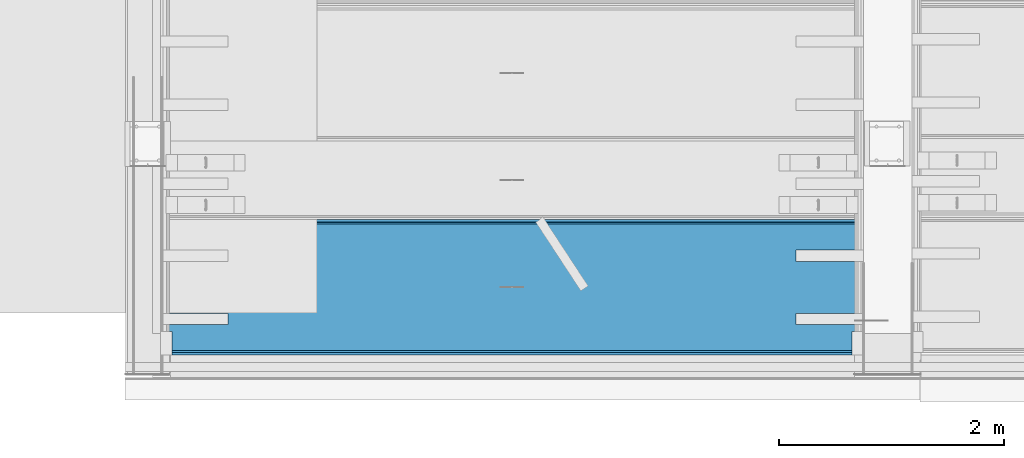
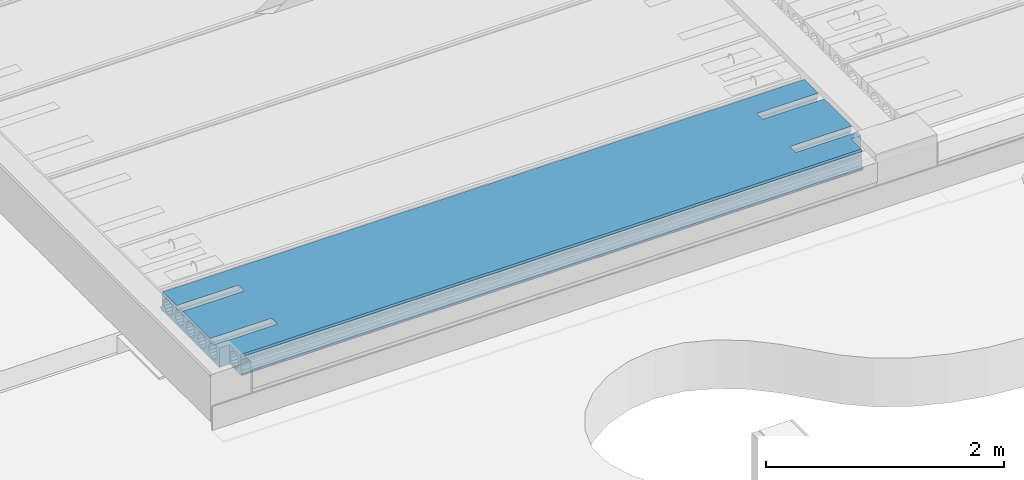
# One storey, part 72 of 230: 1 beam.
"""IFC4X3_ADD2 building model written with IfcOpenShell, lengths in millimetres."""

from ifc_helpers import new_model, si_unit, direction, origin_with_axes, place, context, subcontext, project, spatial, polygons, element, save


model = new_model("IFC4X3_ADD2")

# Units and contexts
model_context = context("Model", 3, precision=1e-05, world=origin_with_axes(), true_north=direction((0.0, 1.0)))
body_context = subcontext(model_context, "Body", "Model", "MODEL_VIEW")
ifc_project = project(units=[si_unit("LENGTHUNIT", "METRE", prefix="MILLI"), si_unit("AREAUNIT", "SQUARE_METRE"), si_unit("VOLUMEUNIT", "CUBIC_METRE"), si_unit("PLANEANGLEUNIT", "RADIAN"), si_unit("TIMEUNIT", "SECOND"), si_unit("MASSUNIT", "GRAM")], contexts=[model_context])

# Site, building, storey
site_placement = place(None, origin_with_axes())
site = spatial("IfcSite", under=ifc_project, at=site_placement, Name="Site", CompositionType="ELEMENT")
building_placement = place(site_placement, origin_with_axes())
building = spatial("IfcBuilding", under=site, at=building_placement, Name="IFC Building Story")
storey_placement = place(building_placement, origin_with_axes())
storey = spatial("IfcBuildingStorey", under=building, at=storey_placement, Name="ETAGE 00 (0)", Elevation=0.0)

# Beam
beam_placement = place(storey_placement, origin_with_axes())
element("IfcBeam", 1, at=beam_placement, inside=storey, Name="HOLLOWCORE SLAB", ObjectType="EB_SP200", context=body_context, shape_type="Tessellation", body=[
    polygons([(33515.6922247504, -13989.999771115, 4199.9999909), (33515.6922247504, -13989.999771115, 4155.806158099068), (33515.6922247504, -13994.67922631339, 4152.679446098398), (33515.6922247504, -14010.82879628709, 4128.509906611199), (33515.6922247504, -14016.499771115, 4099.9999909), (33515.6922247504, -14010.82879628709, 4071.490075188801), (33515.6922247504, -13994.67922631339, 4047.320535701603), (33515.6922247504, -13970.5096868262, 4031.17096572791), (33515.6922247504, -13941.999771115, 4025.499990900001), (33515.6922247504, -13913.4898554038, 4031.17096572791), (33515.6922247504, -13889.3203159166, 4047.320535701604), (33515.6922247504, -13873.17074594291, 4071.490075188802), (33515.6922247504, -13867.499771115, 4099.9999909), (33515.6922247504, -13873.17074594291, 4128.5099066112), (33515.6922247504, -13889.3203159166, 4152.679446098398), (33515.6922247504, -13889.999771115, 4153.13344354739), (33515.6922247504, -13889.999771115, 4199.9999909), (33515.6922247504, -13429.999771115, 4199.9999909), (33515.6922247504, -13429.999771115, 4153.133443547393), (33515.6922247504, -13430.6792263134, 4152.679446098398), (33515.6922247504, -13446.82879628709, 4128.509906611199), (33515.6922247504, -13452.499771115, 4099.9999909), (33515.6922247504, -13446.82879628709, 4071.490075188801), (33515.6922247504, -13430.67922631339, 4047.320535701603), (33515.6922247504, -13406.5096868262, 4031.17096572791), (33515.6922247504, -13377.999771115, 4025.499990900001), (33515.6922247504, -13349.4898554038, 4031.17096572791), (33515.6922247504, -13325.3203159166, 4047.320535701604), (33515.6922247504, -13309.17074594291, 4071.490075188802), (33515.6922247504, -13303.499771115, 4099.9999909), (33515.6922247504, -13309.17074594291, 4128.5099066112), (33515.6922247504, -13325.3203159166, 4152.679446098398), (33515.6922247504, -13329.999771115, 4155.806158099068), (33515.6922247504, -13329.999771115, 4199.9999909), (33515.6922247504, -13097.999771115, 4199.9999909), (33515.6922247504, -13082.71106727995, 4185.002769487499), (33515.6922247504, -13082.22975158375, 4159.9999909), (33515.6922247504, -13089.41840752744, 4151.036789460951), (33515.6922247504, -13091.83970112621, 4139.805000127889), (33515.6922247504, -13088.98239259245, 4128.676139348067), (33515.6922247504, -13081.44978332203, 4119.9999909), (33515.6922247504, -13079.999771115, 4044.999990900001), (33515.6922247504, -13059.999771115, 4029.9999909), (33515.6922247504, -13059.999771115, 4012.9999909), (33515.6922247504, -13070.999771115, 3999.9999909), (33515.6922247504, -14049.999771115, 3999.9999909), (33515.6922247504, -14049.999771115, 4199.9999909), (33515.6922247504, -13137.3203159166, 4152.679446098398), (33515.6922247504, -13161.4898554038, 4168.829016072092), (33515.6922247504, -13189.999771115, 4174.4999909), (33515.6922247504, -13218.5096868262, 4168.829016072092), (33515.6922247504, -13242.6792263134, 4152.679446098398), (33515.6922247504, -13258.82879628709, 4128.509906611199), (33515.6922247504, -13264.499771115, 4099.9999909), (33515.6922247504, -13258.82879628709, 4071.490075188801), (33515.6922247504, -13242.6792263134, 4047.320535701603), (33515.6922247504, -13218.5096868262, 4031.17096572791), (33515.6922247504, -13189.999771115, 4025.499990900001), (33515.6922247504, -13161.4898554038, 4031.17096572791), (33515.6922247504, -13137.3203159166, 4047.320535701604), (33515.6922247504, -13121.17074594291, 4071.490075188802), (33515.6922247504, -13115.499771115, 4099.9999909), (33515.6922247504, -13121.17074594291, 4128.5099066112), (33515.6922247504, -13513.3203159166, 4152.679446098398), (33515.6922247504, -13537.4898554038, 4168.829016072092), (33515.6922247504, -13565.999771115, 4174.4999909), (33515.6922247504, -13594.5096868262, 4168.829016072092), (33515.6922247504, -13618.67922631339, 4152.679446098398), (33515.6922247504, -13634.82879628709, 4128.509906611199), (33515.6922247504, -13640.499771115, 4099.9999909), (33515.6922247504, -13634.82879628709, 4071.490075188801), (33515.6922247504, -13618.67922631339, 4047.320535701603), (33515.6922247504, -13594.5096868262, 4031.17096572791), (33515.6922247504, -13565.999771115, 4025.499990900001), (33515.6922247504, -13537.4898554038, 4031.17096572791), (33515.6922247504, -13513.3203159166, 4047.320535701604), (33515.6922247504, -13497.17074594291, 4071.490075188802), (33515.6922247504, -13491.499771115, 4099.9999909), (33515.6922247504, -13497.17074594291, 4128.5099066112), (33515.6922247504, -13701.3203159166, 4152.679446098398), (33515.6922247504, -13725.4898554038, 4168.829016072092), (33515.6922247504, -13753.999771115, 4174.4999909), (33515.6922247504, -13782.5096868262, 4168.829016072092), (33515.6922247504, -13806.67922631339, 4152.679446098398), (33515.6922247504, -13822.82879628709, 4128.509906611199), (33515.6922247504, -13828.499771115, 4099.9999909), (33515.6922247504, -13822.82879628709, 4071.490075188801), (33515.6922247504, -13806.67922631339, 4047.320535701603), (33515.6922247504, -13782.5096868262, 4031.17096572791), (33515.6922247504, -13753.999771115, 4025.499990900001), (33515.6922247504, -13725.4898554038, 4031.17096572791), (33515.6922247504, -13701.3203159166, 4047.320535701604), (33515.6922247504, -13685.17074594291, 4071.490075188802), (33515.6922247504, -13679.499771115, 4099.9999909), (33515.6922247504, -13685.17074594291, 4128.5099066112), (39750.6922247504, -13070.999771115, 3999.9999909), (39750.6922247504, -13059.999771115, 4012.999990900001), (39750.6922247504, -13059.999771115, 4029.9999909), (39750.6922247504, -13079.999771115, 4044.999990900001), (39750.6922247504, -13081.44978332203, 4119.9999909), (39750.6922247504, -13088.98239259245, 4128.676139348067), (39750.6922247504, -13091.83970112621, 4139.805000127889), (39750.6922247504, -13089.41840752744, 4151.036789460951), (39750.6922247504, -13082.22975158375, 4159.9999909), (39750.6922247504, -13082.71106727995, 4185.002769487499), (39750.6922247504, -13097.999771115, 4199.9999909), (39750.6922247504, -13329.999771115, 4199.9999909), (39750.6922247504, -13329.999771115, 4155.806158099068), (39750.6922247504, -13325.3203159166, 4152.679446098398), (39750.6922247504, -13309.17074594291, 4128.509906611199), (39750.6922247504, -13303.499771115, 4099.9999909), (39750.6922247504, -13309.17074594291, 4071.490075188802), (39750.6922247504, -13325.3203159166, 4047.320535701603), (39750.6922247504, -13349.4898554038, 4031.17096572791), (39750.6922247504, -13377.999771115, 4025.499990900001), (39750.6922247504, -13406.5096868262, 4031.17096572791), (39750.6922247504, -13430.6792263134, 4047.320535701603), (39750.6922247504, -13446.82879628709, 4071.490075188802), (39750.6922247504, -13452.499771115, 4099.9999909), (39750.6922247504, -13446.82879628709, 4128.509906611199), (39750.6922247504, -13430.6792263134, 4152.679446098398), (39750.6922247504, -13429.999771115, 4153.133443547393), (39750.6922247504, -13429.999771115, 4199.9999909), (39750.6922247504, -13889.999771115, 4199.9999909), (39750.6922247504, -13889.999771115, 4153.13344354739), (39750.6922247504, -13889.3203159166, 4152.679446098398), (39750.6922247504, -13873.17074594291, 4128.509906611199), (39750.6922247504, -13867.499771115, 4099.9999909), (39750.6922247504, -13873.17074594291, 4071.490075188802), (39750.6922247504, -13889.3203159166, 4047.320535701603), (39750.6922247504, -13913.4898554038, 4031.17096572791), (39750.6922247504, -13941.999771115, 4025.499990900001), (39750.6922247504, -13970.5096868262, 4031.17096572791), (39750.6922247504, -13994.67922631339, 4047.320535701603), (39750.6922247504, -14010.82879628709, 4071.490075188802), (39750.6922247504, -14016.499771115, 4099.9999909), (39750.6922247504, -14010.82879628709, 4128.509906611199), (39750.6922247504, -13994.67922631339, 4152.679446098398), (39750.6922247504, -13989.999771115, 4155.806158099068), (39750.6922247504, -13989.999771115, 4199.9999909), (39750.6922247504, -14049.999771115, 4199.9999909), (39750.6922247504, -14049.999771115, 3999.9999909), (39750.6922247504, -13137.3203159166, 4152.679446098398), (39750.6922247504, -13121.17074594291, 4128.509906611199), (39750.6922247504, -13115.499771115, 4099.9999909), (39750.6922247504, -13121.17074594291, 4071.490075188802), (39750.6922247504, -13137.3203159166, 4047.320535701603), (39750.6922247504, -13161.4898554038, 4031.17096572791), (39750.6922247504, -13189.999771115, 4025.499990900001), (39750.6922247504, -13218.5096868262, 4031.17096572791), (39750.6922247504, -13242.6792263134, 4047.320535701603), (39750.6922247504, -13258.82879628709, 4071.490075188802), (39750.6922247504, -13264.499771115, 4099.9999909), (39750.6922247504, -13258.82879628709, 4128.509906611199), (39750.6922247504, -13242.6792263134, 4152.679446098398), (39750.6922247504, -13218.5096868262, 4168.829016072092), (39750.6922247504, -13189.999771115, 4174.4999909), (39750.6922247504, -13161.4898554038, 4168.829016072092), (39750.6922247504, -13513.3203159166, 4152.679446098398), (39750.6922247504, -13497.17074594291, 4128.509906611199), (39750.6922247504, -13491.499771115, 4099.9999909), (39750.6922247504, -13497.17074594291, 4071.490075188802), (39750.6922247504, -13513.3203159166, 4047.320535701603), (39750.6922247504, -13537.4898554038, 4031.17096572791), (39750.6922247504, -13565.999771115, 4025.499990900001), (39750.6922247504, -13594.5096868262, 4031.17096572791), (39750.6922247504, -13618.67922631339, 4047.320535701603), (39750.6922247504, -13634.82879628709, 4071.490075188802), (39750.6922247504, -13640.499771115, 4099.9999909), (39750.6922247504, -13634.82879628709, 4128.509906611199), (39750.6922247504, -13618.67922631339, 4152.679446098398), (39750.6922247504, -13594.5096868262, 4168.829016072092), (39750.6922247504, -13565.999771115, 4174.4999909), (39750.6922247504, -13537.4898554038, 4168.829016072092), (39750.6922247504, -13701.3203159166, 4152.679446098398), (39750.6922247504, -13685.17074594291, 4128.509906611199), (39750.6922247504, -13679.499771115, 4099.9999909), (39750.6922247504, -13685.17074594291, 4071.490075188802), (39750.6922247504, -13701.3203159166, 4047.320535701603), (39750.6922247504, -13725.4898554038, 4031.17096572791), (39750.6922247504, -13753.999771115, 4025.499990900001), (39750.6922247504, -13782.5096868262, 4031.17096572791), (39750.6922247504, -13806.67922631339, 4047.320535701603), (39750.6922247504, -13822.82879628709, 4071.490075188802), (39750.6922247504, -13828.499771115, 4099.9999909), (39750.6922247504, -13822.82879628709, 4128.509906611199), (39750.6922247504, -13806.67922631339, 4152.679446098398), (39750.6922247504, -13782.5096868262, 4168.829016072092), (39750.6922247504, -13753.999771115, 4174.4999909), (39750.6922247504, -13725.4898554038, 4168.829016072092), (39650.69222475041, -14049.999771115, 3999.9999909), (39650.69222475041, -14248.999771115, 3999.9999909), (33615.6922247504, -14248.999771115, 3999.9999909), (33615.6922247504, -14049.999771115, 3999.9999909), (33615.6922247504, -14259.999771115, 4012.999990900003), (39650.69222475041, -14259.999771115, 4012.999990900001), (33615.6922247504, -14259.999771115, 4029.9999909), (39650.69222475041, -14259.999771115, 4029.9999909), (33615.6922247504, -14239.999771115, 4044.999990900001), (39650.69222475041, -14239.999771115, 4044.999990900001), (33615.6922247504, -14238.54975890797, 4119.9999909), (39650.69222475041, -14238.54975890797, 4119.9999909), (33615.6922247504, -14231.01714963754, 4128.676139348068), (39650.69222475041, -14231.01714963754, 4128.676139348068), (33615.6922247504, -14228.15984110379, 4139.805000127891), (39650.69222475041, -14228.15984110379, 4139.805000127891), (33615.6922247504, -14230.58113470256, 4151.036789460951), (39650.69222475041, -14230.58113470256, 4151.036789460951), (33615.6922247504, -14237.76979064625, 4159.9999909), (39650.69222475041, -14237.76979064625, 4159.9999909), (33615.6922247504, -14237.28847495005, 4185.002769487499), (39650.69222475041, -14237.28847495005, 4185.002769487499), (33615.6922247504, -14221.999771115, 4199.9999909), (39650.69222475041, -14221.999771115, 4199.9999909), (34115.6922247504, -13889.999771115, 4199.9999909), (34115.6922247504, -13989.999771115, 4199.9999909), (33615.6922247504, -14049.999771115, 4199.9999909), (39650.6922247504, -14049.999771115, 4199.9999909), (39150.69222475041, -13989.999771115, 4199.9999909), (39150.69222475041, -13889.999771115, 4199.9999909), (39150.69222475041, -13429.999771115, 4199.9999909), (39150.69222475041, -13329.999771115, 4199.9999909), (34115.6922247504, -13329.999771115, 4199.9999909), (34115.6922247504, -13429.999771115, 4199.9999909), (39150.69222475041, -13329.999771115, 4155.806158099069), (39150.69222475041, -13349.4898554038, 4168.829016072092), (34115.6922247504, -13349.4898554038, 4168.829016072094), (34115.6922247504, -13329.999771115, 4155.806158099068), (39150.69222475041, -13377.999771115, 4174.4999909), (34115.6922247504, -13377.999771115, 4174.4999909), (39150.69222475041, -13406.5096868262, 4168.829016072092), (34115.6922247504, -13406.5096868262, 4168.82901607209), (34115.6922247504, -13429.999771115, 4153.13344354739), (39150.69222475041, -13429.999771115, 4153.133443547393), (39150.69222475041, -13889.999771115, 4153.13344354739), (39150.69222475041, -13913.4898554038, 4168.829016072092), (34115.6922247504, -13913.4898554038, 4168.829016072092), (34115.6922247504, -13889.999771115, 4153.13344354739), (39150.69222475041, -13941.999771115, 4174.4999909), (34115.6922247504, -13941.999771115, 4174.499990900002), (39150.69222475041, -13970.5096868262, 4168.829016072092), (34115.6922247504, -13970.5096868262, 4168.829016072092), (34115.6922247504, -13989.999771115, 4155.806158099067), (39150.69222475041, -13989.999771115, 4155.806158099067), (33615.6922247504, -14101.4898554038, 4168.829016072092), (33615.6922247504, -14077.3203159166, 4152.679446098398), (39650.69222475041, -14077.3203159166, 4152.679446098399), (39650.69222475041, -14101.4898554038, 4168.829016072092), (33615.6922247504, -14129.999771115, 4174.4999909), (39650.69222475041, -14129.999771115, 4174.4999909), (33615.6922247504, -14158.50968682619, 4168.829016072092), (39650.69222475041, -14158.50968682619, 4168.829016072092), (33615.6922247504, -14182.6792263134, 4152.679446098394), (39650.69222475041, -14182.6792263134, 4152.679446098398), (33615.6922247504, -14198.82879628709, 4128.509906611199), (39650.69222475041, -14198.82879628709, 4128.509906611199), (33615.6922247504, -14204.499771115, 4099.9999909), (39650.69222475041, -14204.499771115, 4099.9999909), (33615.6922247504, -14198.82879628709, 4071.490075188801), (39650.69222475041, -14198.82879628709, 4071.490075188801), (33615.6922247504, -14182.67922631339, 4047.320535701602), (39650.69222475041, -14182.67922631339, 4047.320535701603), (33615.6922247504, -14158.5096868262, 4031.170965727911), (39650.69222475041, -14158.50968682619, 4031.17096572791), (33615.6922247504, -14129.999771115, 4025.499990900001), (39650.69222475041, -14129.999771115, 4025.499990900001), (33615.6922247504, -14101.4898554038, 4031.17096572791), (39650.69222475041, -14101.4898554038, 4031.17096572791), (33615.6922247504, -14077.3203159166, 4047.320535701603), (39650.69222475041, -14077.3203159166, 4047.320535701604), (33615.6922247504, -14061.17074594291, 4071.490075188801), (39650.69222475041, -14061.17074594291, 4071.490075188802), (33615.6922247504, -14055.499771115, 4099.9999909), (39650.69222475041, -14055.499771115, 4099.9999909), (33615.6922247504, -14061.17074594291, 4128.509906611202), (39650.69222475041, -14061.17074594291, 4128.5099066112), (34115.6922247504, -13429.999771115, 4199.9999969), (34115.6922247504, -13329.999771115, 4199.9999969), (39150.69222475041, -13329.999771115, 4199.9999969), (39150.69222475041, -13429.999771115, 4199.9999969), (39150.69222475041, -13889.999771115, 4199.9999969), (39150.69222475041, -13989.999771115, 4199.9999969), (34115.6922247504, -13989.999771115, 4199.9999969), (34115.6922247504, -13889.999771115, 4199.9999969), (39650.6922247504, -14049.999771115, 4199.9999969), (39650.6922247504, -14049.999771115, 3999.999996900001)], [[[79, 64, 18]], [[79, 18, 19]], [[21, 22, 78]], [[21, 78, 79]], [[79, 20, 21]], [[79, 19, 20]], [[23, 24, 77]], [[77, 78, 22]], [[77, 22, 23]], [[24, 76, 77]], [[32, 33, 34]], [[51, 52, 31]], [[51, 31, 32]], [[51, 32, 34]], [[34, 50, 51]], [[34, 35, 50]], [[35, 49, 50]], [[35, 48, 49]], [[53, 54, 30]], [[53, 30, 31]], [[31, 52, 53]], [[55, 56, 29]], [[29, 30, 54]], [[29, 54, 55]], [[38, 39, 63]], [[38, 63, 48]], [[48, 35, 36]], [[48, 36, 37]], [[48, 37, 38]], [[40, 41, 62]], [[40, 62, 63]], [[63, 39, 40]], [[41, 42, 61]], [[41, 61, 62]], [[42, 43, 44]], [[42, 44, 45]], [[45, 60, 61]], [[45, 61, 42]], [[45, 59, 60]], [[45, 58, 59]], [[45, 57, 58]], [[45, 28, 57]], [[28, 29, 56]], [[28, 56, 57]], [[45, 27, 28]], [[45, 26, 27]], [[45, 75, 26]], [[75, 25, 26]], [[75, 76, 24]], [[75, 24, 25]], [[45, 74, 75]], [[45, 46, 74]], [[46, 73, 74]], [[15, 16, 17]], [[83, 84, 14]], [[83, 14, 15]], [[83, 15, 17]], [[17, 82, 83]], [[82, 17, 18]], [[18, 81, 82]], [[18, 80, 81]], [[85, 86, 13]], [[85, 13, 14]], [[14, 84, 85]], [[87, 88, 12]], [[12, 13, 86]], [[12, 86, 87]], [[88, 89, 11]], [[88, 11, 12]], [[89, 10, 11]], [[89, 9, 10]], [[91, 92, 72]], [[91, 72, 73]], [[73, 90, 91]], [[90, 73, 46]], [[46, 9, 89]], [[46, 89, 90]], [[46, 8, 9]], [[46, 7, 8]], [[46, 6, 7]], [[46, 47, 5]], [[46, 5, 6]], [[47, 4, 5]], [[47, 1, 3]], [[47, 3, 4]], [[1, 2, 3]], [[92, 71, 72]], [[93, 94, 70]], [[93, 70, 71]], [[71, 92, 93]], [[95, 80, 69]], [[69, 70, 94]], [[69, 94, 95]], [[80, 68, 69]], [[80, 67, 68]], [[80, 66, 67]], [[66, 80, 18]], [[18, 65, 66]], [[18, 64, 65]], [[138, 139, 140]], [[140, 141, 137]], [[140, 137, 138]], [[141, 142, 136]], [[141, 136, 137]], [[142, 135, 136]], [[142, 134, 135]], [[142, 133, 134]], [[142, 132, 133]], [[142, 131, 132]], [[103, 104, 105]], [[103, 105, 106]], [[103, 106, 143]], [[143, 144, 102]], [[143, 102, 103]], [[144, 101, 102]], [[146, 147, 99]], [[99, 100, 145]], [[99, 145, 146]], [[100, 101, 144]], [[100, 144, 145]], [[158, 143, 106]], [[106, 157, 158]], [[157, 106, 107]], [[107, 156, 157]], [[107, 155, 156]], [[107, 108, 154]], [[107, 154, 155]], [[110, 111, 153]], [[110, 153, 154]], [[154, 109, 110]], [[154, 108, 109]], [[112, 113, 152]], [[152, 153, 111]], [[152, 111, 112]], [[113, 151, 152]], [[121, 122, 123]], [[123, 159, 120]], [[123, 120, 121]], [[160, 161, 119]], [[160, 119, 120]], [[120, 159, 160]], [[162, 163, 118]], [[118, 119, 161]], [[118, 161, 162]], [[163, 117, 118]], [[174, 159, 123]], [[123, 173, 174]], [[123, 175, 173]], [[175, 172, 173]], [[175, 171, 172]], [[175, 170, 171]], [[176, 177, 169]], [[176, 169, 170]], [[170, 175, 176]], [[178, 179, 168]], [[168, 169, 177]], [[168, 177, 178]], [[179, 167, 168]], [[131, 142, 182]], [[182, 183, 131]], [[183, 130, 131]], [[142, 181, 182]], [[142, 166, 181]], [[166, 180, 181]], [[166, 167, 179]], [[166, 179, 180]], [[142, 165, 166]], [[142, 116, 165]], [[116, 164, 165]], [[116, 117, 163]], [[116, 163, 164]], [[142, 115, 116]], [[142, 150, 115]], [[150, 114, 115]], [[150, 151, 113]], [[150, 113, 114]], [[142, 149, 150]], [[142, 96, 149]], [[96, 148, 149]], [[96, 99, 147]], [[96, 147, 148]], [[96, 97, 98]], [[96, 98, 99]], [[183, 129, 130]], [[184, 185, 128]], [[184, 128, 129]], [[129, 183, 184]], [[186, 187, 127]], [[127, 128, 185]], [[127, 185, 186]], [[190, 175, 123]], [[123, 189, 190]], [[123, 124, 189]], [[124, 188, 189]], [[124, 126, 127]], [[124, 127, 187]], [[124, 187, 188]], [[124, 125, 126]], [[194, 46, 45]], [[194, 45, 191]], [[191, 192, 193]], [[191, 193, 194]], [[45, 96, 191]], [[96, 142, 191]], [[195, 193, 192, 196]], [[197, 195, 196, 198]], [[199, 197, 198, 200]], [[201, 199, 200, 202]], [[203, 201, 202, 204]], [[205, 203, 204, 206]], [[207, 205, 206, 208]], [[209, 207, 208, 210]], [[211, 209, 210, 212]], [[213, 211, 212, 214]], [[217, 213, 216]], [[216, 1, 217]], [[1, 47, 217]], [[218, 141, 140]], [[219, 220, 215]], [[216, 213, 214]], [[216, 214, 219]], [[219, 215, 216]], [[218, 140, 219]], [[219, 214, 218]], [[220, 124, 123]], [[220, 123, 221]], [[222, 107, 106]], [[223, 224, 221]], [[222, 106, 35]], [[222, 35, 223]], [[223, 221, 222]], [[35, 34, 223]], [[224, 215, 220]], [[224, 220, 221]], [[224, 18, 17]], [[224, 17, 215]], [[36, 35, 106, 105]], [[37, 36, 105, 104]], [[38, 37, 104, 103]], [[39, 38, 103, 102]], [[40, 39, 102, 101]], [[41, 40, 101, 100]], [[42, 41, 100, 99]], [[43, 42, 99, 98]], [[44, 43, 98, 97]], [[45, 44, 97, 96]], [[49, 48, 143, 158]], [[50, 49, 158, 157]], [[51, 50, 157, 156]], [[52, 51, 156, 155]], [[53, 52, 155, 154]], [[54, 53, 154, 153]], [[55, 54, 153, 152]], [[56, 55, 152, 151]], [[57, 56, 151, 150]], [[58, 57, 150, 149]], [[59, 58, 149, 148]], [[60, 59, 148, 147]], [[61, 60, 147, 146]], [[62, 61, 146, 145]], [[63, 62, 145, 144]], [[48, 63, 144, 143]], [[228, 33, 32]], [[228, 32, 225]], [[225, 226, 227]], [[225, 227, 228]], [[32, 109, 225]], [[109, 108, 225]], [[227, 226, 229, 230]], [[230, 229, 231, 232]], [[234, 122, 121]], [[234, 121, 233]], [[233, 232, 231]], [[233, 231, 234]], [[121, 20, 233]], [[20, 19, 233]], [[21, 20, 121, 120]], [[22, 21, 120, 119]], [[23, 22, 119, 118]], [[24, 23, 118, 117]], [[25, 24, 117, 116]], [[26, 25, 116, 115]], [[27, 26, 115, 114]], [[28, 27, 114, 113]], [[29, 28, 113, 112]], [[30, 29, 112, 111]], [[31, 30, 111, 110]], [[32, 31, 110, 109]], [[65, 64, 159, 174]], [[66, 65, 174, 173]], [[67, 66, 173, 172]], [[68, 67, 172, 171]], [[69, 68, 171, 170]], [[70, 69, 170, 169]], [[71, 70, 169, 168]], [[72, 71, 168, 167]], [[73, 72, 167, 166]], [[74, 73, 166, 165]], [[75, 74, 165, 164]], [[76, 75, 164, 163]], [[77, 76, 163, 162]], [[78, 77, 162, 161]], [[79, 78, 161, 160]], [[64, 79, 160, 159]], [[81, 80, 175, 190]], [[82, 81, 190, 189]], [[83, 82, 189, 188]], [[84, 83, 188, 187]], [[85, 84, 187, 186]], [[86, 85, 186, 185]], [[87, 86, 185, 184]], [[88, 87, 184, 183]], [[89, 88, 183, 182]], [[90, 89, 182, 181]], [[91, 90, 181, 180]], [[92, 91, 180, 179]], [[93, 92, 179, 178]], [[94, 93, 178, 177]], [[95, 94, 177, 176]], [[80, 95, 176, 175]], [[238, 16, 15]], [[238, 15, 235]], [[235, 236, 237]], [[235, 237, 238]], [[15, 126, 235]], [[126, 125, 235]], [[237, 236, 239, 240]], [[240, 239, 241, 242]], [[244, 139, 138]], [[244, 138, 243]], [[243, 242, 241]], [[243, 241, 244]], [[138, 3, 243]], [[3, 2, 243]], [[4, 3, 138, 137]], [[5, 4, 137, 136]], [[6, 5, 136, 135]], [[7, 6, 135, 134]], [[8, 7, 134, 133]], [[9, 8, 133, 132]], [[10, 9, 132, 131]], [[11, 10, 131, 130]], [[12, 11, 130, 129]], [[13, 12, 129, 128]], [[14, 13, 128, 127]], [[15, 14, 127, 126]], [[245, 246, 247, 248]], [[249, 245, 248, 250]], [[251, 249, 250, 252]], [[253, 251, 252, 254]], [[255, 253, 254, 256]], [[257, 255, 256, 258]], [[259, 257, 258, 260]], [[261, 259, 260, 262]], [[263, 261, 262, 264]], [[265, 263, 264, 266]], [[267, 265, 266, 268]], [[269, 267, 268, 270]], [[271, 269, 270, 272]], [[273, 271, 272, 274]], [[275, 273, 274, 276]], [[246, 275, 276, 247]], [[34, 33, 228, 223]], [[19, 18, 277, 233]], [[232, 233, 224]], [[224, 278, 230]], [[224, 230, 232]], [[278, 227, 230]], [[278, 228, 227]], [[123, 122, 234, 221]], [[108, 107, 279, 225]], [[226, 225, 222]], [[222, 229, 226]], [[222, 280, 231]], [[222, 231, 229]], [[280, 234, 231]], [[140, 139, 244, 219]], [[125, 124, 281, 235]], [[236, 235, 220]], [[220, 282, 239]], [[220, 239, 236]], [[282, 241, 239]], [[282, 244, 241]], [[17, 16, 238, 215]], [[2, 1, 283, 243]], [[242, 243, 216]], [[216, 240, 242]], [[216, 284, 237]], [[216, 237, 240]], [[284, 238, 237]], [[47, 46, 194, 217]], [[207, 209, 211]], [[207, 211, 213]], [[253, 255, 205]], [[253, 205, 207]], [[207, 213, 251]], [[207, 251, 253]], [[213, 217, 249]], [[213, 249, 251]], [[217, 245, 249]], [[217, 246, 245]], [[255, 203, 205]], [[275, 246, 217]], [[217, 273, 275]], [[217, 194, 273]], [[194, 271, 273]], [[194, 269, 271]], [[194, 267, 269]], [[194, 265, 267]], [[194, 263, 265]], [[194, 199, 263]], [[199, 261, 263]], [[199, 259, 261]], [[199, 201, 257]], [[199, 257, 259]], [[201, 203, 255]], [[201, 255, 257]], [[194, 193, 199]], [[193, 195, 197]], [[193, 197, 199]], [[285, 191, 142, 141]], [[248, 247, 276]], [[248, 276, 274]], [[248, 274, 272]], [[248, 272, 270]], [[248, 270, 268]], [[248, 268, 266]], [[248, 266, 264]], [[248, 264, 262]], [[248, 262, 260]], [[248, 260, 258]], [[248, 258, 256]], [[248, 256, 254]], [[248, 254, 252]], [[248, 252, 250]]]),
])

save(model, "model.ifc")
